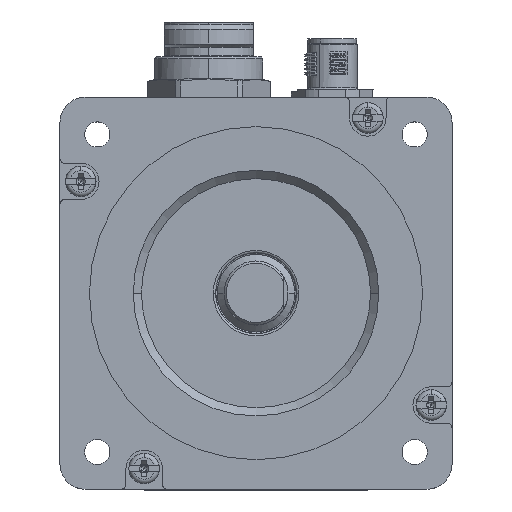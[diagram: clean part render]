
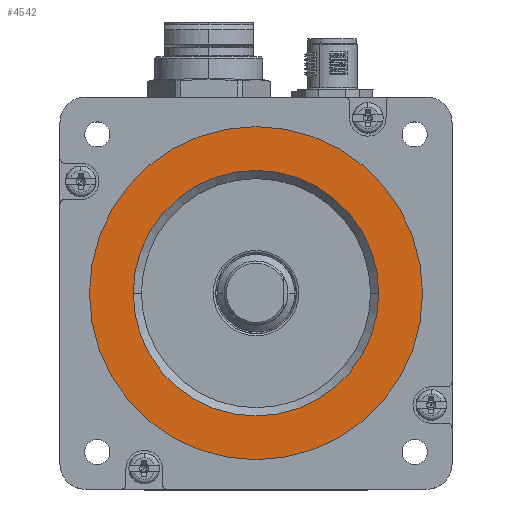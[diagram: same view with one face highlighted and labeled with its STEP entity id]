
A CAD part, top view. The second image highlights one B-rep face of the part: STEP entity #4542.
In plain terms, the highlighted planar face has unit normal (0, 0, 1).
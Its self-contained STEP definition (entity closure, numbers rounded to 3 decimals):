
#1412 = CARTESIAN_POINT ( 'NONE',  ( 28.188, -8.214, 248.925 ) ) ;
#1659 = AXIS2_PLACEMENT_3D ( 'NONE', #39198, #62337, #62852 ) ;
#4540 = CARTESIAN_POINT ( 'NONE',  ( -36.162, -45.664, 248.925 ) ) ;
#4542 = ADVANCED_FACE ( 'NONE', ( #61693, #53288 ), #6061, .T. ) ;
#6061 = PLANE ( 'NONE',  #40244 ) ;
#6745 = CARTESIAN_POINT ( 'NONE',  ( -25.612, -8.214, 248.925 ) ) ;
#8535 = DIRECTION ( 'NONE',  ( 0., 0., 1. ) ) ;
#11450 = DIRECTION ( 'NONE',  ( 1., 0., 0. ) ) ;
#12337 = DIRECTION ( 'NONE',  ( 1., 0., 0. ) ) ;
#14502 = DIRECTION ( 'NONE',  ( 0., 0., -1. ) ) ;
#15956 = ORIENTED_EDGE ( 'NONE', *, *, #85348, .T. ) ;
#19417 = AXIS2_PLACEMENT_3D ( 'NONE', #37714, #94072, #69813 ) ;
#21657 = AXIS2_PLACEMENT_3D ( 'NONE', #91427, #8535, #11450 ) ;
#24139 = EDGE_LOOP ( 'NONE', ( #35969, #53323 ) ) ;
#24999 = VERTEX_POINT ( 'NONE', #1412 ) ;
#34761 = VERTEX_POINT ( 'NONE', #38788 ) ;
#35969 = ORIENTED_EDGE ( 'NONE', *, *, #92910, .T. ) ;
#37714 = CARTESIAN_POINT ( 'NONE',  ( 1.288, -8.214, 248.925 ) ) ;
#38788 = CARTESIAN_POINT ( 'NONE',  ( 37.788, -8.214, 248.925 ) ) ;
#39198 = CARTESIAN_POINT ( 'NONE',  ( 1.288, -8.214, 248.925 ) ) ;
#40244 = AXIS2_PLACEMENT_3D ( 'NONE', #4540, #86455, #12337 ) ;
#43509 = CIRCLE ( 'NONE', #21657, 36.5 ) ;
#53288 = FACE_OUTER_BOUND ( 'NONE', #91179, .T. ) ;
#53323 = ORIENTED_EDGE ( 'NONE', *, *, #72237, .T. ) ;
#56310 = CIRCLE ( 'NONE', #19417, 26.9 ) ;
#61693 = FACE_BOUND ( 'NONE', #24139, .T. ) ;
#62337 = DIRECTION ( 'NONE',  ( 0., 0., 1. ) ) ;
#62852 = DIRECTION ( 'NONE',  ( 1., 0., 0. ) ) ;
#66354 = CIRCLE ( 'NONE', #81434, 26.9 ) ;
#68021 = VERTEX_POINT ( 'NONE', #103920 ) ;
#69813 = DIRECTION ( 'NONE',  ( 1., 0., 0. ) ) ;
#72237 = EDGE_CURVE ( 'NONE', #82111, #24999, #56310, .T. ) ;
#77067 = DIRECTION ( 'NONE',  ( 1., 0., 0. ) ) ;
#81434 = AXIS2_PLACEMENT_3D ( 'NONE', #85040, #14502, #77067 ) ;
#82111 = VERTEX_POINT ( 'NONE', #6745 ) ;
#82973 = ORIENTED_EDGE ( 'NONE', *, *, #85966, .T. ) ;
#85040 = CARTESIAN_POINT ( 'NONE',  ( 1.288, -8.214, 248.925 ) ) ;
#85348 = EDGE_CURVE ( 'NONE', #68021, #34761, #87263, .T. ) ;
#85966 = EDGE_CURVE ( 'NONE', #34761, #68021, #43509, .T. ) ;
#86455 = DIRECTION ( 'NONE',  ( 0., 0., 1. ) ) ;
#87263 = CIRCLE ( 'NONE', #1659, 36.5 ) ;
#91179 = EDGE_LOOP ( 'NONE', ( #82973, #15956 ) ) ;
#91427 = CARTESIAN_POINT ( 'NONE',  ( 1.288, -8.214, 248.925 ) ) ;
#92910 = EDGE_CURVE ( 'NONE', #24999, #82111, #66354, .T. ) ;
#94072 = DIRECTION ( 'NONE',  ( 0., 0., -1. ) ) ;
#103920 = CARTESIAN_POINT ( 'NONE',  ( -35.212, -8.214, 248.925 ) ) ;
